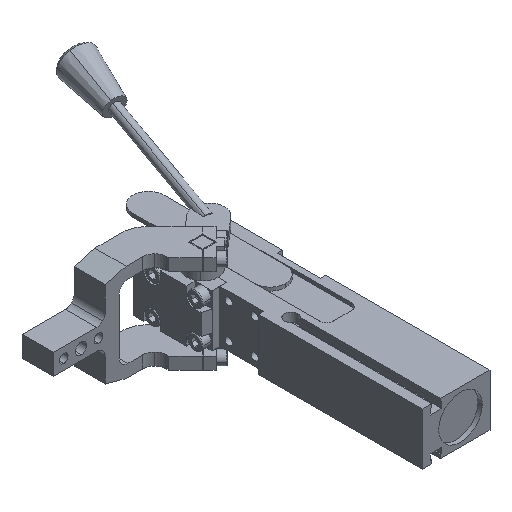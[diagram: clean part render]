
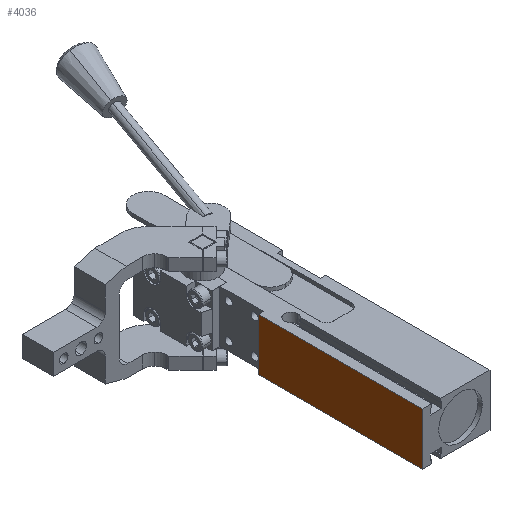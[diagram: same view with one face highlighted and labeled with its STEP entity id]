
A CAD part, isometric view. The second image highlights one B-rep face of the part: STEP entity #4036.
In plain terms, the highlighted planar face has unit normal (-1, 0, 0).
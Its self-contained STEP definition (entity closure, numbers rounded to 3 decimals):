
#4023=AXIS2_PLACEMENT_3D('Plane Axis2P3D',#4020,#4021,#4022) ;
#2851=CARTESIAN_POINT('Vertex',(-19.5,-79.75,0.)) ;
#2854=CARTESIAN_POINT('Line Origine',(-19.5,-32.5,0.)) ;
#2858=CARTESIAN_POINT('Vertex',(-19.5,14.75,0.)) ;
#2987=CARTESIAN_POINT('Vertex',(-19.5,14.75,30.)) ;
#2990=CARTESIAN_POINT('Line Origine',(-19.5,-32.5,30.)) ;
#2994=CARTESIAN_POINT('Vertex',(-19.5,-79.75,30.)) ;
#3302=CARTESIAN_POINT('Line Origine',(-19.5,14.75,15.)) ;
#4020=CARTESIAN_POINT('Axis2P3D Location',(-19.5,-79.75,0.)) ;
#4025=CARTESIAN_POINT('Line Origine',(-19.5,-79.75,15.)) ;
#2855=DIRECTION('Vector Direction',(0.,1.,0.)) ;
#2991=DIRECTION('Vector Direction',(0.,1.,0.)) ;
#3303=DIRECTION('Vector Direction',(0.,0.,-1.)) ;
#4021=DIRECTION('Axis2P3D Direction',(-1.,0.,0.)) ;
#4022=DIRECTION('Axis2P3D XDirection',(0.,0.,1.)) ;
#4026=DIRECTION('Vector Direction',(0.,0.,1.)) ;
#2856=VECTOR('Line Direction',#2855,1.) ;
#2992=VECTOR('Line Direction',#2991,1.) ;
#3304=VECTOR('Line Direction',#3303,1.) ;
#4027=VECTOR('Line Direction',#4026,1.) ;
#4031=ORIENTED_EDGE('',*,*,#3306,.T.) ;
#4032=ORIENTED_EDGE('',*,*,#2860,.F.) ;
#4033=ORIENTED_EDGE('',*,*,#4029,.T.) ;
#4034=ORIENTED_EDGE('',*,*,#2996,.T.) ;
#4036=ADVANCED_FACE('K_20_1_Z_A00_T03_TUENKERS',(#4035),#4024,.T.) ;
#2860=EDGE_CURVE('',#2852,#2859,#2857,.T.) ;
#2996=EDGE_CURVE('',#2995,#2988,#2993,.T.) ;
#3306=EDGE_CURVE('',#2988,#2859,#3305,.T.) ;
#4029=EDGE_CURVE('',#2852,#2995,#4028,.T.) ;
#4030=EDGE_LOOP('',(#4031,#4032,#4033,#4034)) ;
#4035=FACE_OUTER_BOUND('',#4030,.T.) ;
#2857=LINE('Line',#2854,#2856) ;
#2993=LINE('Line',#2990,#2992) ;
#3305=LINE('Line',#3302,#3304) ;
#4028=LINE('Line',#4025,#4027) ;
#4024=PLANE('Plane',#4023) ;
#2852=VERTEX_POINT('',#2851) ;
#2859=VERTEX_POINT('',#2858) ;
#2988=VERTEX_POINT('',#2987) ;
#2995=VERTEX_POINT('',#2994) ;
